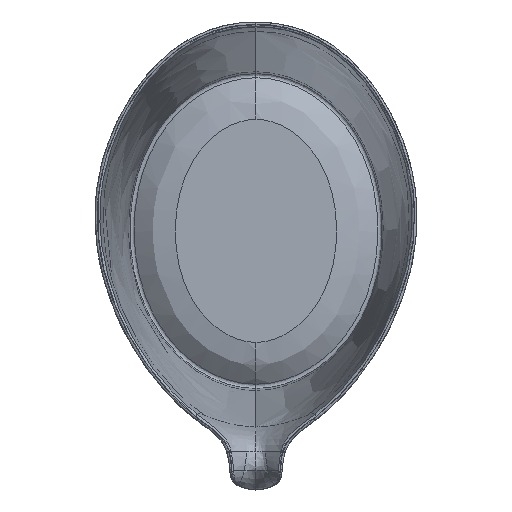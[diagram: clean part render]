
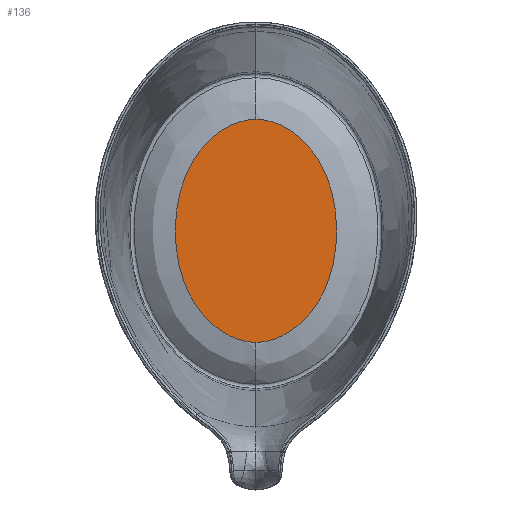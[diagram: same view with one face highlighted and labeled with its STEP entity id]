
A CAD part, top view. The second image highlights one B-rep face of the part: STEP entity #136.
In plain terms, the highlighted planar face has unit normal (0, 0, 1).
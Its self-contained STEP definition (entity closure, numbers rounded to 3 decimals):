
#128=PLANE('',#1210);
#136=ADVANCED_FACE('',(#221),#128,.F.);
#221=FACE_OUTER_BOUND('',#300,.T.);
#300=EDGE_LOOP('',(#407,#408));
#407=ORIENTED_EDGE('',*,*,#877,.T.);
#408=ORIENTED_EDGE('',*,*,#878,.F.);
#768=VERTEX_POINT('',#2302);
#769=VERTEX_POINT('',#2303);
#877=EDGE_CURVE('',#768,#769,#1062,.T.);
#878=EDGE_CURVE('',#768,#769,#1063,.T.);
#1062=B_SPLINE_CURVE_WITH_KNOTS('',3,(#2286,#2287,#2288,#2289,#2290,#2291,
#2292,#2293,#2294,#2295,#2296,#2297,#2298,#2299,#2300,#2301),
 .UNSPECIFIED.,.F.,.F.,(4,2,2,2,2,2,2,4),(0.,0.125,0.25,0.5,0.625,0.75,
0.875,1.),.UNSPECIFIED.);
#1063=B_SPLINE_CURVE_WITH_KNOTS('',3,(#2304,#2305,#2306,#2307,#2308,#2309,
#2310,#2311,#2312,#2313,#2314,#2315,#2316,#2317,#2318,#2319),
 .UNSPECIFIED.,.F.,.F.,(4,2,2,2,2,2,2,4),(0.,0.125,0.25,0.5,0.625,0.75,
0.875,1.),.UNSPECIFIED.);
#1210=AXIS2_PLACEMENT_3D('',#2320,#1231,#1232);
#1231=DIRECTION('',(0.,0.,-1.));
#1232=DIRECTION('',(0.,1.,0.));
#2286=CARTESIAN_POINT('',(12.8,-11.434,-4.));
#2287=CARTESIAN_POINT('',(15.386,-11.434,-4.));
#2288=CARTESIAN_POINT('',(17.843,-10.457,-4.));
#2289=CARTESIAN_POINT('',(22.057,-7.598,-4.));
#2290=CARTESIAN_POINT('',(23.81,-5.701,-4.));
#2291=CARTESIAN_POINT('',(27.923,0.804,-4.));
#2292=CARTESIAN_POINT('',(29.02,5.92,-4.));
#2293=CARTESIAN_POINT('',(29.02,13.537,-4.));
#2294=CARTESIAN_POINT('',(28.739,16.084,-4.));
#2295=CARTESIAN_POINT('',(27.511,20.972,-4.));
#2296=CARTESIAN_POINT('',(26.547,23.381,-4.));
#2297=CARTESIAN_POINT('',(23.841,27.663,-4.));
#2298=CARTESIAN_POINT('',(22.079,29.586,-4.));
#2299=CARTESIAN_POINT('',(17.865,32.441,-4.));
#2300=CARTESIAN_POINT('',(15.38,33.421,-4.));
#2301=CARTESIAN_POINT('',(12.8,33.421,-4.));
#2302=CARTESIAN_POINT('',(12.8,-11.434,-4.));
#2303=CARTESIAN_POINT('',(12.8,33.421,-4.));
#2304=CARTESIAN_POINT('',(12.8,-11.434,-4.));
#2305=CARTESIAN_POINT('',(10.214,-11.434,-4.));
#2306=CARTESIAN_POINT('',(7.757,-10.457,-4.));
#2307=CARTESIAN_POINT('',(3.543,-7.598,-4.));
#2308=CARTESIAN_POINT('',(1.79,-5.701,-4.));
#2309=CARTESIAN_POINT('',(-2.323,0.804,-4.));
#2310=CARTESIAN_POINT('',(-3.42,5.92,-4.));
#2311=CARTESIAN_POINT('',(-3.42,13.537,-4.));
#2312=CARTESIAN_POINT('',(-3.139,16.084,-4.));
#2313=CARTESIAN_POINT('',(-1.911,20.972,-4.));
#2314=CARTESIAN_POINT('',(-0.947,23.381,-4.));
#2315=CARTESIAN_POINT('',(1.759,27.663,-4.));
#2316=CARTESIAN_POINT('',(3.521,29.586,-4.));
#2317=CARTESIAN_POINT('',(7.735,32.441,-4.));
#2318=CARTESIAN_POINT('',(10.22,33.421,-4.));
#2319=CARTESIAN_POINT('',(12.8,33.421,-4.));
#2320=CARTESIAN_POINT('',(39.06,10.962,-4.));
